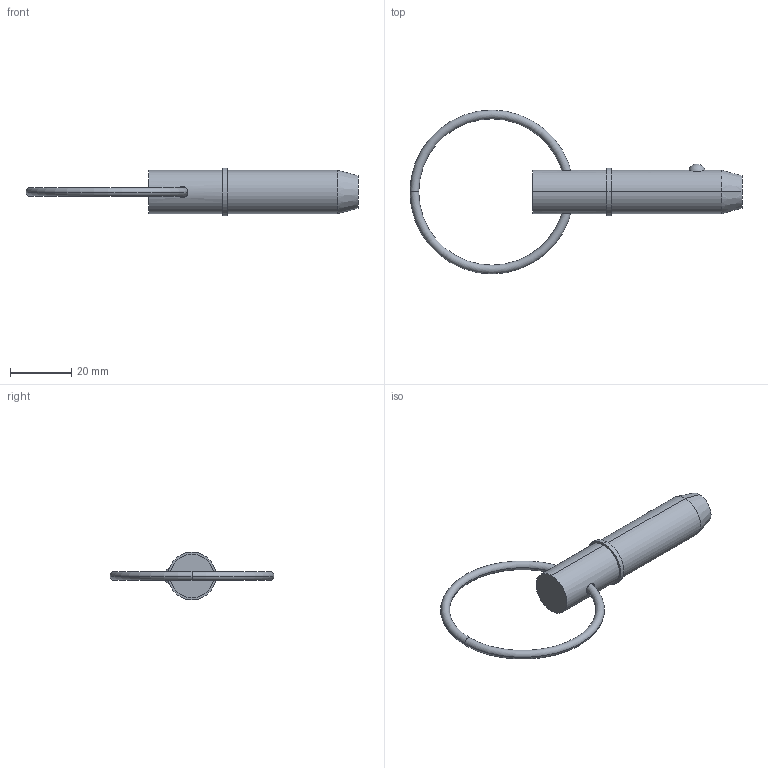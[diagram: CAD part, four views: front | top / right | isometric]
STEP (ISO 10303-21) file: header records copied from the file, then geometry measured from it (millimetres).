
FILE_DESCRIPTION (( 'STEP AP203' ), '1' );
FILE_NAME ('33016.W5610.step', '2024-11-07T11:10:27', ( '' ), ( '' ), 'SwSTEP 2.0', 'SolidWorks 2019', '' );
FILE_SCHEMA (( 'CONFIG_CONTROL_DESIGN' ));
Length unit declared in the file: millimetre
Products named in the file (3): Part1_33016.W5610; Part2_33016.W5610; 33016.W5610
Assembly tree (2 placements, depth 2):
  33016.W5610
    Part1_33016.W5610
    Part2_33016.W5610
Bounding box: 108.76 x 53.66 x 15.72 mm (x, y, z)
Volume: 11706.4 mm3; surface area: 4961.6 mm2
Topology: 2 solids, 2 shells, 22 faces, 43 edges, 26 vertices
Faces by surface type: torus 8, cylinder 6, plane 4, sphere 2, cone 2
Entity records: 1039 total; most frequent: CARTESIAN_POINT 262, DIRECTION 120, ORIENTED_EDGE 86, AXIS2_PLACEMENT_3D 56, EDGE_CURVE 43, CIRCLE 29, EDGE_LOOP 27, VERTEX_POINT 26
